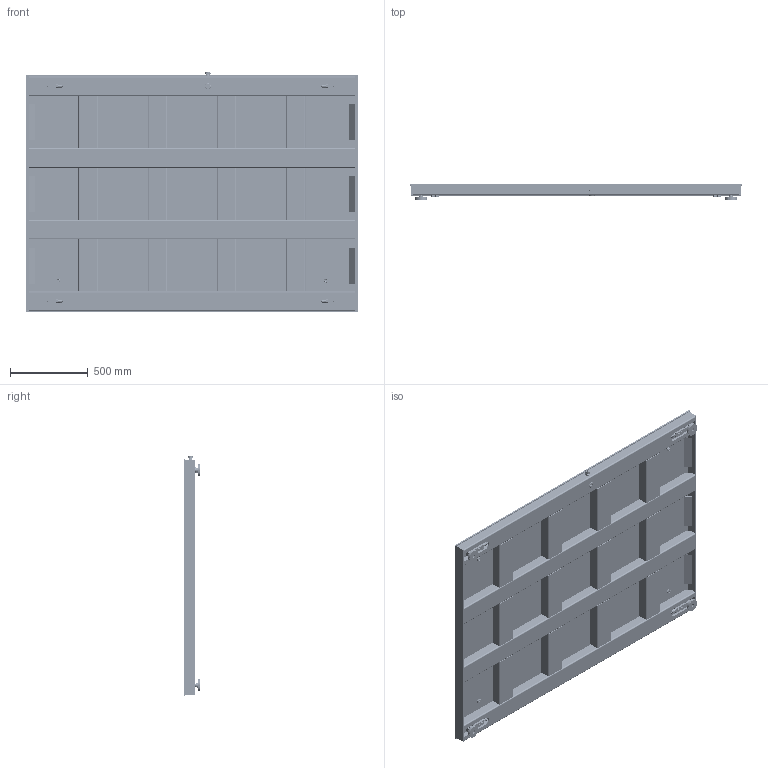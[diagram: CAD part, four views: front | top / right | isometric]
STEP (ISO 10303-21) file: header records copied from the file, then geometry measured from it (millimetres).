
FILE_DESCRIPTION (( 'STEP AP214' ), '1' );
FILE_NAME ('HIFS-6084 Series.STEP', '2019-10-17T15:49:49', ( '' ), ( '' ), 'SwSTEP 2.0', 'SolidWorks 2017', '' );
FILE_SCHEMA (( 'AUTOMOTIVE_DESIGN' ));
Length unit declared in the file: inch
Products named in the file (61): 900-100115; smkds_1-9-3.5; 5504-0012 foot insert; HI SBHF14-5K-Cell; 0508-0918-01_ENCLOSURE ASSY; Cable Adapter Nut; 0508-0918-001_ENCLOSURE; 100-80340_SS; Phoenix_1751141; 800-000166; 5504-0012; 0508-0918-002_PLATE; 0530-0852-01-0; Mini Cable; Socket Countersunk Head Cap Screw - 1_4 - 20_0.75 SS; Phoenix_1751167; 0529-0024-01-0; Hex Bolt - 1_2 - 20_2.25 SS; HP-00092; flat washer type a selected narrow_ai_Selected Narrow FW 0.156; 2818-0128-0_91287A010; HIFS-6084 Weight Bridge Assembly; 0534-0575-01-0 PWB; Adapter Nut; 0508-0918-003_COVER_Default<As Machined>; Gland; PEM BSO4-632-10; 900-100128; 91800A236_91800A236; Hex Nut - 5_8 - 11_SS; blind standoff_pmm_PEM BSO4-M3-6; HP-00093; 100-94081; pan cross head_ai_CR-PHMS 0.138-32x0.25x0.25-C; HP-00003_SS; 5504-0012 Rubber; 100-82172_SS Smooth 3_8; HI SBHF14-5K; Mini Cable Adapter; HIFS-6084 Series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
Assembly tree (146 placements, depth 5):
  HIFS-6084 Series
    HIFS-6084 Weight Bridge Assembly
      100-94079
      100-89979_Stainless
      100-80340_SS  x2
      100-82172_SS Smooth 3_8
      Socket Countersunk Head Cap Screw - 1_4 - 20_0.75 SS  x2
      Hex Nut - 5_8 - 11_SS  x4
      HP-00092
      HP-00093
      HP-00051_Chamfer Both Sides  x2
      100-94081  x12
      HP-00007_SS  x4
      100-89744  x2
      HP-00052  x6
    900-100111
    900-100115
    800-000166
    900-100128  x8
    0530-0825-01-0  x3
    HP-00003_SS  x4
    HI SBHF14-5K  x4
      Mini Cable Adapter
        Mini Cable
        Gland
        Cable Adapter Nut
          Adapter Nut
        Cable Adapter
      HI SBHF14-5K-Cell
    Hex Bolt - 1_2 - 20_2.25 SS  x8
    5504-0012  x4
      Pin 4-6362E-1 Rubber Foot
      93625A150_93625A150
      91800A236_91800A236
      ORING
      5504-0012 foot insert
      5504-0012 Rubber
      5504-0012 threaded insert
    HI 6011 ASSEMBLY
      0508-0918-01_ENCLOSURE ASSY
        0508-0918-001_ENCLOSURE ASSY
          0508-0918-001_ENCLOSURE
          blind standoff_pmm_PEM BSO4-M3-6  x8
          PEM BSO4-632-10  x4
        0508-0918-003_COVER_Default<As Machined>
        0508-0918-002_PLATE
      0524-0038-01-0
      0535-0575-XX-0 PWA
        0534-0575-01-0 PWB
        Phoenix_1751141
          smkds_1-7-3.5
        smkds_1-7-3.5  x3
        Phoenix_1751167
          smkds_1-9-3.5
      2817-0188  x4
        flat washer type a selected narrow_ai_Selected Narrow FW 0.156
        pan cross head_ai_CR-PHMS 0.138-32x0.25x0.25-C
      0529-0024-01-0  x5
      6007-0097-0  x5
      2814-0095-0  x5
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Bounding box: 2133.6 x 105.48 x 1546.22 mm (x, y, z)
Volume: 49145381.9 mm3; surface area: 13983105.1 mm2
Topology: 680 solids, 684 shells, 20407 faces, 51644 edges, 33425 vertices
Faces by surface type: plane 8883, bspline 6621, cylinder 2834, cone 1897, torus 156, sphere 16
Full cylindrical faces by diameter (mm): 10 x4
Entity records: 700456 total; most frequent: CARTESIAN_POINT 222046, ORIENTED_EDGE 74422, DIRECTION 43602, EDGE_CURVE 37211, VERTEX_POINT 24533, VECTOR 22736, LINE 22736, EDGE_LOOP 15240
